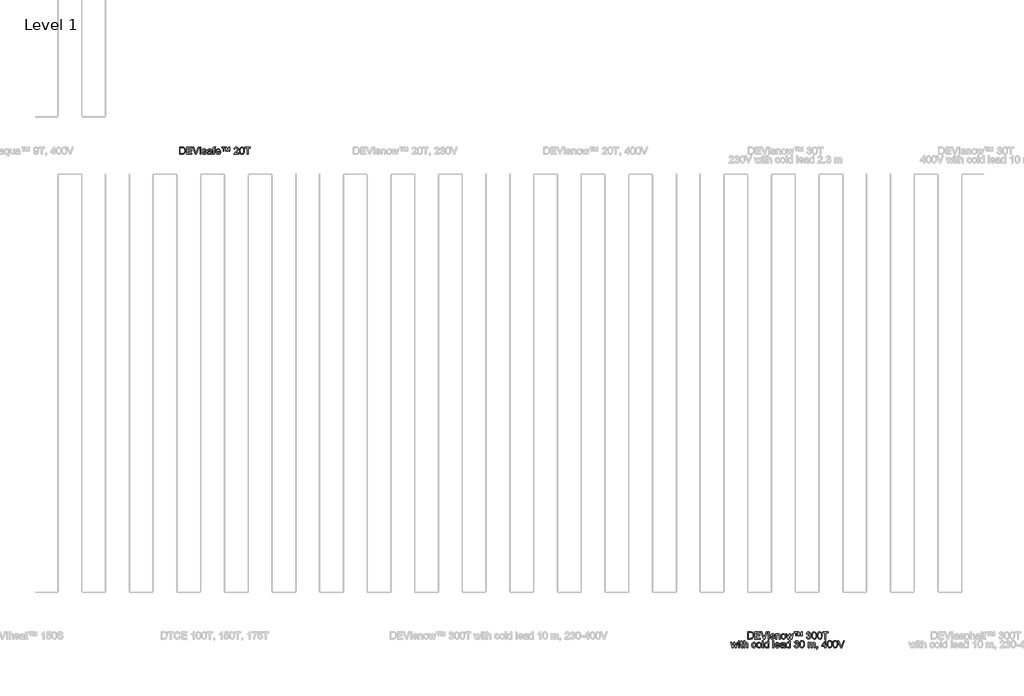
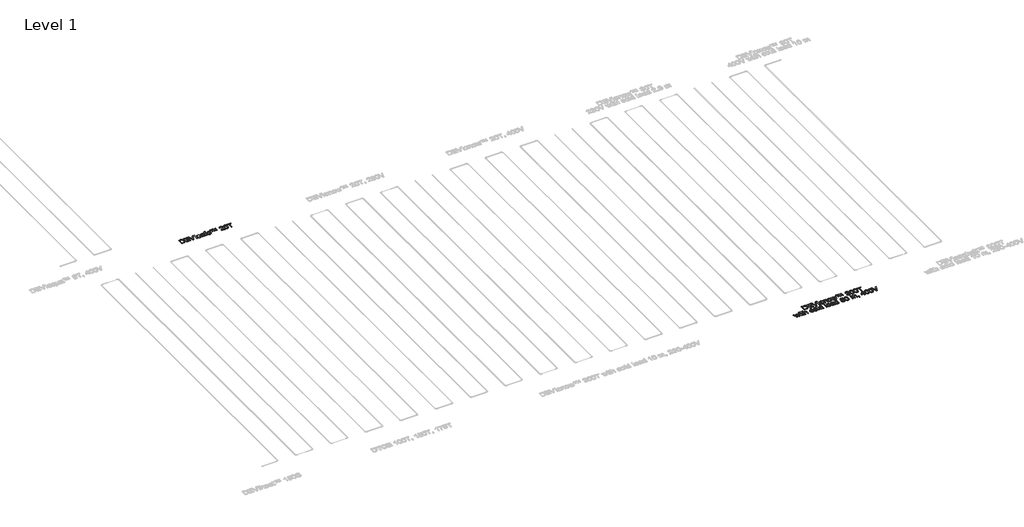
# One storey, part 15 of 26: 2 proxies.
"""IFC4 building model written with IfcOpenShell, lengths in millimetres."""

from ifc_helpers import new_model, si_unit, origin, origin_with_axes, place, context, project, spatial, polyline, outline, extrude, element, save

model = new_model("IFC4")

# Units and contexts
model_context = context("Model", 3, world=origin())
ifc_project = project(units=[si_unit("LENGTHUNIT", "METRE", prefix="MILLI")], contexts=[model_context])

# Site, building, storey
site = spatial("IfcSite", under=ifc_project)
building = spatial("IfcBuilding", under=site)
storey = spatial("IfcBuildingStorey", under=building, Name="Level 1", Elevation=0.0)

# Proxies
placement = place(None, origin())
element("IfcBuildingElementProxy", 1, Name="150mm", ObjectType="150mm", at=placement, inside=storey, context=model_context, shape_type="SweptSolid", body=[
    extrude(outline(polyline([(1467.3969024, -17520.7202), (1467.3969024, -17370.0357347), (1519.3786283, -17370.0357347), (1546.2708022, -17372.2062385), (1568.4172983, -17382.985181), (1578.8375558, -17394.4630992), (1586.259575, -17408.7369206), (1590.7017501, -17425.5307337), (1592.1824752, -17444.568627), (1588.1725614, -17474.9740739), (1577.8718655, -17496.9182349), (1564.1130789, -17510.585051), (1546.1052553, -17518.145026), (1521.8802259, -17520.7202), (1467.3969024, -17520.7202)]), holes=[polyline([(1486.2324606, -17501.8846418), (1519.5625693, -17501.8846418), (1543.8059928, -17499.162315), (1557.7855086, -17491.4735813), (1569.2450328, -17472.7667819), (1573.346917, -17444.2743214), (1571.3373616, -17423.746506), (1565.3086954, -17408.5897678), (1556.4013526, -17398.1787074), (1545.7557674, -17391.8879252), (1519.0475345, -17388.8712929), (1486.2324606, -17388.8712929), (1486.2324606, -17501.8846418)])]), origin_with_axes(), (0.0, 0.0, 1.0), 10.0),
    extrude(outline(polyline([(1618.0813676, -17520.7202), (1618.0813676, -17370.0357347), (1726.385827, -17370.0357347), (1726.385827, -17388.8712929), (1636.9169258, -17388.8712929), (1636.9169258, -17433.6057435), (1721.6769375, -17433.6057435), (1721.6769375, -17452.4413017), (1636.9169258, -17452.4413017), (1636.9169258, -17501.8846418), (1728.7402718, -17501.8846418), (1728.7402718, -17520.7202), (1618.0813676, -17520.7202)])), origin_with_axes(), (0.0, 0.0, 1.0), 10.0),
    extrude(outline(polyline([(1801.5073304, -17520.7202), (1741.5425652, -17370.0357347), (1761.7024985, -17370.0357347), (1801.8384242, -17478.5977115), (1809.9686163, -17503.0618642), (1817.9884438, -17478.5977115), (1858.2347341, -17370.0357347), (1878.3946674, -17370.0357347), (1820.968288, -17520.7202), (1801.5073304, -17520.7202)])), origin_with_axes(), (0.0, 0.0, 1.0), 10.0),
    extrude(outline(polyline([(1898.2602951, -17520.7202), (1898.2602951, -17370.0357347), (1917.0958533, -17370.0357347), (1917.0958533, -17520.7202), (1898.2602951, -17520.7202)])), origin_with_axes(), (0.0, 0.0, 1.0), 10.0),
    extrude(outline(polyline([(1945.3491905, -17487.7579732), (1964.1847487, -17485.4035284), (1967.1553958, -17493.4601441), (1972.903552, -17499.3830442), (1992.8795443, -17504.2390866), (2012.0829845, -17499.7877144), (2018.3369784, -17489.3398658), (2016.7642828, -17484.5390057), (2012.0461963, -17480.8785799), (1992.6588151, -17475.5075028), (1964.2951133, -17466.2920588), (1951.9158841, -17455.5315104), (1947.7036353, -17440.337984), (1951.0881497, -17426.3032859), (1960.3219877, -17415.5795257), (1972.2965467, -17410.0061135), (1988.5017486, -17407.706851), (2011.4207969, -17411.4040651), (2025.9889239, -17421.4104554), (2032.463647, -17438.314633), (2013.6280888, -17440.6690778), (2006.5463604, -17430.2764114), (1989.9732765, -17426.5424092), (1971.9470588, -17430.1108645), (1966.5391935, -17438.4249976), (1968.7832736, -17443.9064394), (1975.8098197, -17448.0635059), (1992.0334157, -17452.0734197), (2019.6797477, -17460.9393757), (2032.5188293, -17470.9825542), (2037.1725365, -17487.353303), (2031.7094889, -17505.3795208), (2015.9457454, -17518.4577257), (1992.6220269, -17523.0746447), (1973.6301189, -17520.8489587), (1959.7701647, -17514.1719004), (1950.5179326, -17503.1170465), (1945.3491905, -17487.7579732)])), origin_with_axes(), (0.0, 0.0, 1.0), 10.0),
    extrude(outline(polyline([(2128.9958825, -17506.5935313), (2110.7305415, -17519.3590366), (2090.552214, -17523.0746447), (2074.8114632, -17520.8397616), (2063.2001877, -17514.1351122), (2056.0402844, -17503.953978), (2053.6536499, -17491.2896403), (2057.2588935, -17476.3904195), (2066.7318548, -17465.5746889), (2079.9204244, -17459.3942714), (2096.2175968, -17456.56158), (2128.8855179, -17450.0868569), (2128.9958825, -17445.8930021), (2127.6990985, -17437.4868985), (2123.8087464, -17431.9870627), (2115.1083372, -17427.9035726), (2102.9866255, -17426.5424092), (2083.9303381, -17430.1660468), (2074.8436528, -17443.0235226), (2056.0080947, -17440.6690778), (2064.1566809, -17422.274978), (2080.5642179, -17411.4960356), (2105.4146466, -17407.706851), (2128.2417244, -17411.0545772), (2141.1359884, -17419.4606808), (2146.9117357, -17432.2445801), (2147.8314407, -17448.7256935), (2147.8314407, -17472.1597766), (2148.7879339, -17504.8828801), (2152.5403302, -17520.7202), (2133.7047721, -17520.7202), (2128.9958825, -17506.5935313)]), holes=[polyline([(2128.9958825, -17468.922415), (2098.6088297, -17474.6981624), (2082.4036278, -17477.7515829), (2075.064382, -17482.7179899), (2072.4892081, -17489.9652652), (2078.0994085, -17500.1555964), (2094.5621278, -17504.2390866), (2113.6184151, -17499.7325321), (2125.9056738, -17488.824831), (2128.8855179, -17474.256704), (2128.9958825, -17468.922415)])]), origin_with_axes(), (0.0, 0.0, 1.0), 10.0),
    extrude(outline(polyline([(2178.4392227, -17520.7202), (2178.4392227, -17428.896854), (2161.9581093, -17428.896854), (2161.9581093, -17410.0612958), (2178.4392227, -17410.0612958), (2178.4392227, -17398.9144714), (2180.4257854, -17383.2059102), (2190.0642937, -17371.9855093), (2209.0470047, -17367.68129), (2226.2270938, -17369.7414291), (2223.4679789, -17387.3997649), (2212.61546, -17386.5168481), (2200.7512657, -17389.6438451), (2197.2747808, -17401.3057043), (2197.2747808, -17410.0612958), (2218.4647837, -17410.0612958), (2218.4647837, -17428.896854), (2197.2747808, -17428.896854), (2197.2747808, -17520.7202), (2178.4392227, -17520.7202)])), origin_with_axes(), (0.0, 0.0, 1.0), 10.0),
    extrude(outline(polyline([(2312.4218453, -17487.7579732), (2330.8895215, -17490.112418), (2324.2354559, -17504.0275544), (2313.6174618, -17514.4294178), (2299.2746625, -17520.913338), (2281.4461813, -17523.0746447), (2259.3456705, -17519.345241), (2242.3403252, -17508.1570298), (2231.4970034, -17490.2365781), (2227.8825628, -17466.3104529), (2231.5337916, -17441.5795857), (2242.487478, -17423.0843184), (2259.262897, -17411.5512179), (2280.3793235, -17407.706851), (2300.838161, -17411.5420208), (2317.1859172, -17423.0475302), (2327.9050788, -17441.5060093), (2331.4781327, -17466.2000883), (2331.3677681, -17471.2768598), (2246.718121, -17471.2768598), (2249.9784752, -17485.3759373), (2257.5522457, -17495.7410125), (2268.4829395, -17502.1145681), (2281.8140633, -17504.2390866), (2300.2817395, -17500.3027492), (2312.4218453, -17487.7579732)]), holes=[polyline([(2246.718121, -17452.4413017), (2312.6425745, -17452.4413017), (2310.0949917, -17442.4900937), (2305.1009936, -17435.3715771), (2294.1197161, -17428.7497012), (2280.3057471, -17426.5424092), (2267.6092198, -17428.3036442), (2257.1107873, -17433.5873494), (2249.8129283, -17441.8233076), (2246.718121, -17452.4413017)])]), origin_with_axes(), (0.0, 0.0, 1.0), 10.0),
    extrude(outline(polyline([(2385.6303624, -17454.7957464), (2385.6303624, -17384.1624033), (2357.3770251, -17384.1624033), (2357.3770251, -17370.0357347), (2428.0103682, -17370.0357347), (2428.0103682, -17384.1624033), (2399.757031, -17384.1624033), (2399.757031, -17454.7957464), (2385.6303624, -17454.7957464)])), origin_with_axes(), (0.0, 0.0, 1.0), 10.0),
    extrude(outline(polyline([(2437.4281473, -17454.7957464), (2437.4281473, -17370.0357347), (2458.3238446, -17370.0357347), (2479.8817295, -17438.0939038), (2501.182097, -17370.0357347), (2522.188159, -17370.0357347), (2522.188159, -17454.7957464), (2508.0614904, -17454.7957464), (2508.0614904, -17385.1924729), (2486.8714874, -17454.7957464), (2472.7448188, -17454.7957464), (2451.5548159, -17384.1624033), (2451.5548159, -17454.7957464), (2437.4281473, -17454.7957464)])), origin_with_axes(), (0.0, 0.0, 1.0), 10.0),
    extrude(outline(polyline([(2710.5437405, -17501.8846418), (2710.5437405, -17520.7202), (2611.6570602, -17520.7202), (2613.6804112, -17507.7339655), (2625.1215412, -17487.7395791), (2648.7027771, -17465.9057827), (2681.2235455, -17434.5254485), (2687.3211896, -17423.7097178), (2689.3537376, -17413.1882928), (2687.4361527, -17403.7567181), (2681.683398, -17395.9162331), (2672.8404345, -17390.6325279), (2661.6522233, -17388.8712929), (2649.9029921, -17390.5911412), (2640.7749201, -17395.7506862), (2634.8842097, -17403.9452576), (2632.8470631, -17414.7701853), (2614.011505, -17412.4157406), (2618.5778402, -17394.1963848), (2628.4508733, -17380.8882536), (2643.1155693, -17372.7488644), (2662.0568935, -17370.0357347), (2681.1361735, -17373.0523671), (2695.7732784, -17382.1022642), (2705.0852914, -17395.6219275), (2708.1892957, -17412.0478586), (2704.8415696, -17429.9085294), (2693.7131392, -17448.3762056), (2666.7289949, -17474.1831276), (2645.0607454, -17492.3013158), (2636.5626713, -17501.8846418), (2710.5437405, -17501.8846418)])), origin_with_axes(), (0.0, 0.0, 1.0), 10.0),
    extrude(outline(polyline([(2729.3792987, -17446.5919779), (2730.7634547, -17422.4727146), (2734.9159227, -17403.2370848), (2741.795316, -17388.5907829), (2751.3602479, -17378.2395032), (2763.6796962, -17372.0866769), (2778.8226388, -17370.0357347), (2800.8219821, -17374.8917771), (2816.0155085, -17388.889687), (2824.8446764, -17411.1833359), (2828.265979, -17446.5919779), (2826.8956185, -17470.5732855), (2822.7845372, -17489.7629301), (2815.9465306, -17504.4230276), (2806.3953943, -17514.8156939), (2794.0483549, -17521.009907), (2778.8226388, -17523.0746447), (2759.2513167, -17519.4877953), (2744.3888841, -17508.7272469), (2733.131695, -17483.2422217), (2729.3792987, -17446.5919779)]), holes=[polyline([(2748.2148568, -17446.5551897), (2750.4221488, -17476.1834859), (2757.0440247, -17493.3313854), (2766.9032622, -17501.5121613), (2778.8226388, -17504.2390866), (2790.7420154, -17501.5029642), (2800.6012529, -17493.2945972), (2807.2231288, -17476.1375007), (2809.4304208, -17446.5551897), (2807.2967052, -17417.5936797), (2800.8955585, -17400.3124229), (2791.0547151, -17391.7315754), (2778.6019096, -17388.8712929), (2766.8112917, -17391.3912846), (2757.3383303, -17398.9512596), (2750.4957252, -17417.3085711), (2748.2148568, -17446.5551897)])]), origin_with_axes(), (0.0, 0.0, 1.0), 10.0),
    extrude(outline(polyline([(2889.481543, -17520.7202), (2889.481543, -17388.8712929), (2840.0382028, -17388.8712929), (2840.0382028, -17370.0357347), (2957.7604413, -17370.0357347), (2957.7604413, -17388.8712929), (2908.3171011, -17388.8712929), (2908.3171011, -17520.7202), (2889.481543, -17520.7202)])), origin_with_axes(), (0.0, 0.0, 1.0), 10.0),
])
element("IfcBuildingElementProxy", 2, Name="150mm", ObjectType="150mm", at=placement, inside=storey, context=model_context, shape_type="SweptSolid", body=[
    extrude(outline(polyline([(13412.1229729, -27720.7202), (13412.1229729, -27570.0357347), (13464.1046989, -27570.0357347), (13490.9968727, -27572.2062385), (13513.1433688, -27582.985181), (13523.5636263, -27594.4630992), (13530.9856456, -27608.7369206), (13535.4278207, -27625.5307337), (13536.9085457, -27644.568627), (13532.898632, -27674.9740739), (13522.5979361, -27696.9182349), (13508.8391495, -27710.585051), (13490.8313258, -27718.145026), (13466.6062964, -27720.7202), (13412.1229729, -27720.7202)]), holes=[polyline([(13430.9585311, -27701.8846418), (13464.2886399, -27701.8846418), (13488.5320633, -27699.162315), (13502.5115792, -27691.4735813), (13513.9711033, -27672.7667819), (13518.0729876, -27644.2743214), (13516.0634322, -27623.746506), (13510.034766, -27608.5897678), (13501.1274232, -27598.1787074), (13490.4818379, -27591.8879252), (13463.7736051, -27588.8712929), (13430.9585311, -27588.8712929), (13430.9585311, -27701.8846418)])]), origin_with_axes(), (0.0, 0.0, 1.0), 10.0),
    extrude(outline(polyline([(13562.8074382, -27720.7202), (13562.8074382, -27570.0357347), (13671.1118975, -27570.0357347), (13671.1118975, -27588.8712929), (13581.6429963, -27588.8712929), (13581.6429963, -27633.6057435), (13666.403008, -27633.6057435), (13666.403008, -27652.4413017), (13581.6429963, -27652.4413017), (13581.6429963, -27701.8846418), (13673.4663423, -27701.8846418), (13673.4663423, -27720.7202), (13562.8074382, -27720.7202)])), origin_with_axes(), (0.0, 0.0, 1.0), 10.0),
    extrude(outline(polyline([(13746.233401, -27720.7202), (13686.2686358, -27570.0357347), (13706.4285691, -27570.0357347), (13746.5644948, -27678.5977115), (13754.6946869, -27703.0618642), (13762.7145143, -27678.5977115), (13802.9608046, -27570.0357347), (13823.120738, -27570.0357347), (13765.6943585, -27720.7202), (13746.233401, -27720.7202)])), origin_with_axes(), (0.0, 0.0, 1.0), 10.0),
    extrude(outline(polyline([(13842.9863657, -27720.7202), (13842.9863657, -27570.0357347), (13861.8219238, -27570.0357347), (13861.8219238, -27720.7202), (13842.9863657, -27720.7202)])), origin_with_axes(), (0.0, 0.0, 1.0), 10.0),
    extrude(outline(polyline([(13890.0752611, -27687.7579732), (13908.9108192, -27685.4035284), (13911.8814663, -27693.4601441), (13917.6296225, -27699.3830442), (13937.6056149, -27704.2390866), (13956.809055, -27699.7877144), (13963.0630489, -27689.3398658), (13961.4903534, -27684.5390057), (13956.7722668, -27680.8785799), (13937.3848857, -27675.5075028), (13909.0211838, -27666.2920588), (13896.6419547, -27655.5315104), (13892.4297058, -27640.337984), (13895.8142202, -27626.3032859), (13905.0480583, -27615.5795257), (13917.0226172, -27610.0061135), (13933.2278191, -27607.706851), (13956.1468674, -27611.4040651), (13970.7149944, -27621.4104554), (13977.1897175, -27638.314633), (13958.3541594, -27640.6690778), (13951.272431, -27630.2764114), (13934.6993471, -27626.5424092), (13916.6731293, -27630.1108645), (13911.265264, -27638.4249976), (13913.5093442, -27643.9064394), (13920.5358903, -27648.0635059), (13936.7594863, -27652.0734197), (13964.4058182, -27660.9393757), (13977.2448998, -27670.9825542), (13981.8986071, -27687.353303), (13976.4355594, -27705.3795208), (13960.671816, -27718.4577257), (13937.3480975, -27723.0746447), (13918.3561895, -27720.8489587), (13904.4962353, -27714.1719004), (13895.2440031, -27703.1170465), (13890.0752611, -27687.7579732)])), origin_with_axes(), (0.0, 0.0, 1.0), 10.0),
    extrude(outline(polyline([(14003.08861, -27720.7202), (14003.08861, -27610.0612958), (14021.9241682, -27610.0612958), (14021.9241682, -27625.5123396), (14036.3267483, -27612.1582232), (14055.9900409, -27607.706851), (14073.7771354, -27611.2937005), (14085.9172412, -27620.7114796), (14091.5642298, -27634.5622367), (14092.5575112, -27652.7723954), (14092.5575112, -27720.7202), (14073.7219531, -27720.7202), (14073.7219531, -27655.3107812), (14071.5514493, -27638.6457268), (14063.8811097, -27629.834953), (14050.9500576, -27626.5424092), (14039.9181962, -27628.3910162), (14030.5142127, -27633.9368373), (14024.0716793, -27644.6514004), (14021.9241682, -27662.0062335), (14021.9241682, -27720.7202), (14003.08861, -27720.7202)])), origin_with_axes(), (0.0, 0.0, 1.0), 10.0),
    extrude(outline(polyline([(14113.7475141, -27665.3907479), (14117.8218072, -27638.7101062), (14130.0446865, -27619.9573215), (14145.1462424, -27610.7694686), (14163.2276425, -27607.706851), (14183.0150953, -27611.4362548), (14198.8202255, -27622.6244659), (14209.1807022, -27640.3885678), (14212.6341944, -27663.8456435), (14211.1074842, -27682.8743397), (14206.5273533, -27697.3596933), (14199.0271592, -27708.2076136), (14188.7402589, -27716.3240101), (14176.5219781, -27721.3869861), (14163.2276425, -27723.0746447), (14143.2010664, -27719.3590366), (14127.4143303, -27708.2122121), (14117.1642182, -27690.0756298), (14113.7475141, -27665.3907479)]), holes=[polyline([(14132.5830723, -27665.3539597), (14134.7627731, -27682.4006916), (14141.3018756, -27694.545396), (14151.142719, -27701.8156639), (14163.2276425, -27704.2390866), (14175.2573837, -27701.8018684), (14185.079833, -27694.4902137), (14191.6189355, -27682.184561), (14193.7986363, -27664.7653485), (14191.6051399, -27648.2152572), (14185.0246507, -27636.2360998), (14175.1884059, -27628.9658318), (14163.2276425, -27626.5424092), (14151.142719, -27628.9566348), (14141.3018756, -27636.1993116), (14134.7627731, -27648.3164248), (14132.5830723, -27665.3539597)])]), origin_with_axes(), (0.0, 0.0, 1.0), 10.0),
    extrude(outline(polyline([(14252.1815089, -27720.7202), (14218.5203064, -27610.0612958), (14238.0916285, -27610.0612958), (14257.1847041, -27674.624586), (14262.886875, -27697.6907871), (14267.5589763, -27675.4707146), (14282.7525027, -27610.0612958), (14305.1933044, -27610.0612958), (14320.3132544, -27675.2867736), (14324.470321, -27695.4099187), (14330.4300093, -27674.1831276), (14349.5598731, -27610.0612958), (14369.2047716, -27610.0612958), (14335.2860516, -27720.7202), (14312.5141561, -27720.7202), (14298.0563937, -27655.825816), (14293.862539, -27635.5923063), (14275.2109218, -27720.7202), (14252.1815089, -27720.7202)])), origin_with_axes(), (0.0, 0.0, 1.0), 10.0),
    extrude(outline(polyline([(14469.2686743, -27654.7957464), (14469.2686743, -27570.0357347), (14490.1643716, -27570.0357347), (14511.7222565, -27638.0939038), (14533.022624, -27570.0357347), (14554.028686, -27570.0357347), (14554.028686, -27654.7957464), (14539.9020174, -27654.7957464), (14539.9020174, -27585.1924729), (14518.7120144, -27654.7957464), (14504.5853458, -27654.7957464), (14483.3953429, -27584.1624033), (14483.3953429, -27654.7957464), (14469.2686743, -27654.7957464)])), origin_with_axes(), (0.0, 0.0, 1.0), 10.0),
    extrude(outline(polyline([(14417.4708894, -27654.7957464), (14417.4708894, -27584.1624033), (14389.2175521, -27584.1624033), (14389.2175521, -27570.0357347), (14459.8508952, -27570.0357347), (14459.8508952, -27584.1624033), (14431.597558, -27584.1624033), (14431.597558, -27654.7957464), (14417.4708894, -27654.7957464)])), origin_with_axes(), (0.0, 0.0, 1.0), 10.0),
    extrude(outline(polyline([(14645.852032, -27680.6946389), (14664.6875901, -27678.3401941), (14668.9044375, -27690.1767973), (14675.0802565, -27698.1690337), (14683.5185498, -27702.7215733), (14694.5228199, -27704.2390866), (14707.435478, -27702.1513563), (14717.40508, -27695.8881653), (14723.7786356, -27686.5439626), (14725.9031541, -27675.2131972), (14723.7970297, -27664.4572473), (14717.4786564, -27655.7338455), (14707.9137246, -27649.9534997), (14696.0679243, -27648.0267177), (14682.8609607, -27650.0868569), (14684.9578881, -27631.2512987), (14687.9745204, -27631.4720279), (14709.3484643, -27626.0641626), (14716.4669809, -27619.2031634), (14718.8398198, -27609.4358964), (14717.1199715, -27601.3011058), (14711.9604265, -27594.7022225), (14704.0877518, -27590.3290253), (14694.2285143, -27588.8712929), (14684.3508828, -27590.3428209), (14676.275873, -27594.7574048), (14670.380564, -27602.1150447), (14667.0420349, -27612.4157406), (14648.2064767, -27610.0612958), (14653.7522978, -27593.1479211), (14663.6207323, -27580.5203716), (14677.1220016, -27572.6568939), (14693.5663267, -27570.0357347), (14716.2830399, -27575.2044768), (14732.1755421, -27589.3311454), (14737.675378, -27608.3322504), (14732.4514536, -27625.6962806), (14717.0004098, -27638.1674802), (14728.7910278, -27642.9315521), (14737.5282252, -27651.0433501), (14742.9360905, -27662.0614158), (14744.7387123, -27675.544291), (14741.1334687, -27693.9016025), (14730.3177381, -27709.2422817), (14713.9929745, -27719.616554), (14693.8606323, -27723.0746447), (14675.6504736, -27720.1223917), (14660.8248292, -27711.2656327), (14650.5149363, -27697.7183782), (14645.852032, -27680.6946389)])), origin_with_axes(), (0.0, 0.0, 1.0), 10.0),
    extrude(outline(polyline([(14761.2198257, -27646.5919779), (14762.6039817, -27622.4727146), (14766.7564497, -27603.2370848), (14773.635843, -27588.5907829), (14783.2007749, -27578.2395032), (14795.5202232, -27572.0866769), (14810.6631658, -27570.0357347), (14832.6625091, -27574.8917771), (14847.8560355, -27588.889687), (14856.6852034, -27611.1833359), (14860.106506, -27646.5919779), (14858.7361455, -27670.5732855), (14854.6250642, -27689.7629301), (14847.7870576, -27704.4230276), (14838.2359213, -27714.8156939), (14825.8888819, -27721.009907), (14810.6631658, -27723.0746447), (14791.0918437, -27719.4877953), (14776.2294111, -27708.7272469), (14764.972222, -27683.2422217), (14761.2198257, -27646.5919779)]), holes=[polyline([(14780.0553838, -27646.5551897), (14782.2626758, -27676.1834859), (14788.8845517, -27693.3313854), (14798.7437892, -27701.5121613), (14810.6631658, -27704.2390866), (14822.5825425, -27701.5029642), (14832.4417799, -27693.2945972), (14839.0636558, -27676.1375007), (14841.2709478, -27646.5551897), (14839.1372322, -27617.5936797), (14832.7360855, -27600.3124229), (14822.8952421, -27591.7315754), (14810.4424366, -27588.8712929), (14798.6518187, -27591.3912846), (14789.1788573, -27598.9512596), (14782.3362522, -27617.3085711), (14780.0553838, -27646.5551897)])]), origin_with_axes(), (0.0, 0.0, 1.0), 10.0),
    extrude(outline(polyline([(14876.5876193, -27646.5919779), (14877.9717754, -27622.4727146), (14882.1242434, -27603.2370848), (14889.0036367, -27588.5907829), (14898.5685686, -27578.2395032), (14910.8880169, -27572.0866769), (14926.0309595, -27570.0357347), (14948.0303028, -27574.8917771), (14963.2238292, -27588.889687), (14972.0529971, -27611.1833359), (14975.4742996, -27646.5919779), (14974.1039392, -27670.5732855), (14969.9928579, -27689.7629301), (14963.1548513, -27704.4230276), (14953.603715, -27714.8156939), (14941.2566756, -27721.009907), (14926.0309595, -27723.0746447), (14906.4596374, -27719.4877953), (14891.5972047, -27708.7272469), (14880.3400157, -27683.2422217), (14876.5876193, -27646.5919779)]), holes=[polyline([(14895.4231775, -27646.5551897), (14897.6304695, -27676.1834859), (14904.2523454, -27693.3313854), (14914.1115829, -27701.5121613), (14926.0309595, -27704.2390866), (14937.9503361, -27701.5029642), (14947.8095736, -27693.2945972), (14954.4314495, -27676.1375007), (14956.6387415, -27646.5551897), (14954.5050259, -27617.5936797), (14948.1038792, -27600.3124229), (14938.2630358, -27591.7315754), (14925.8102303, -27588.8712929), (14914.0196124, -27591.3912846), (14904.546651, -27598.9512596), (14897.7040459, -27617.3085711), (14895.4231775, -27646.5551897)])]), origin_with_axes(), (0.0, 0.0, 1.0), 10.0),
    extrude(outline(polyline([(15036.6898636, -27720.7202), (15036.6898636, -27588.8712929), (14987.2465235, -27588.8712929), (14987.2465235, -27570.0357347), (15104.968762, -27570.0357347), (15104.968762, -27588.8712929), (15055.5254218, -27588.8712929), (15055.5254218, -27720.7202), (15036.6898636, -27720.7202)])), origin_with_axes(), (0.0, 0.0, 1.0), 10.0),
    extrude(outline(polyline([(13090.2630154, -27903.6824267), (13056.6018128, -27793.0235226), (13076.1731349, -27793.0235226), (13095.2662105, -27857.5868127), (13100.9683814, -27880.6530138), (13105.6404828, -27858.4329413), (13120.8340092, -27793.0235226), (13143.2748109, -27793.0235226), (13158.3947609, -27858.2490003), (13162.5518274, -27878.3721455), (13168.5115157, -27857.1453543), (13187.6413795, -27793.0235226), (13207.286278, -27793.0235226), (13173.3675581, -27903.6824267), (13150.5956626, -27903.6824267), (13136.1379002, -27838.7880428), (13131.9440454, -27818.554533), (13113.2924283, -27903.6824267), (13090.2630154, -27903.6824267)])), origin_with_axes(), (0.0, 0.0, 1.0), 10.0),
    extrude(outline(polyline([(13220.2357243, -27771.8335197), (13220.2357243, -27752.9979615), (13239.0712824, -27752.9979615), (13239.0712824, -27771.8335197), (13220.2357243, -27771.8335197)])), origin_with_axes(), (0.0, 0.0, 1.0), 10.0),
    extrude(outline(polyline([(13220.2357243, -27903.6824267), (13220.2357243, -27793.0235226), (13239.0712824, -27793.0235226), (13239.0712824, -27903.6824267), (13220.2357243, -27903.6824267)])), origin_with_axes(), (0.0, 0.0, 1.0), 10.0),
    extrude(outline(polyline([(13307.3501807, -27887.9738655), (13309.7046255, -27904.2342497), (13295.6147451, -27906.0368715), (13279.8326075, -27902.9098745), (13271.9599328, -27894.706106), (13269.6790644, -27873.3321621), (13269.6790644, -27811.8590807), (13255.5523958, -27811.8590807), (13255.5523958, -27793.0235226), (13269.6790644, -27793.0235226), (13269.6790644, -27766.1313487), (13288.5146226, -27755.0581007), (13288.5146226, -27793.0235226), (13307.3501807, -27793.0235226), (13307.3501807, -27811.8590807), (13288.5146226, -27811.8590807), (13288.5146226, -27872.7803391), (13289.507904, -27882.4924238), (13292.7268714, -27885.9321205), (13299.1464122, -27887.2013133), (13307.3501807, -27887.9738655)])), origin_with_axes(), (0.0, 0.0, 1.0), 10.0),
    extrude(outline(polyline([(13326.1857389, -27903.6824267), (13326.1857389, -27752.9979615), (13345.021297, -27752.9979615), (13345.021297, -27808.40099), (13359.7089857, -27795.1020558), (13377.7995828, -27790.6690778), (13398.9527975, -27795.506726), (13411.7918791, -27808.8792366), (13415.6546401, -27833.6376948), (13415.6546401, -27903.6824267), (13396.8190819, -27903.6824267), (13396.8190819, -27835.5874694), (13395.3199628, -27823.7968515), (13390.8226054, -27815.7218417), (13383.5753301, -27811.0589374), (13373.8264572, -27809.504636), (13358.3938075, -27813.6984907), (13348.0931117, -27825.0660444), (13345.021297, -27844.8948839), (13345.021297, -27903.6824267), (13326.1857389, -27903.6824267)])), origin_with_axes(), (0.0, 0.0, 1.0), 10.0),
    extrude(outline(polyline([(13571.0479949, -27863.6568657), (13589.883553, -27866.0113104), (13584.6320375, -27882.7637368), (13574.763603, -27895.4234759), (13561.2071515, -27903.3835226), (13544.891585, -27906.0368715), (13524.8558118, -27902.3350589), (13509.1886374, -27891.2296212), (13499.076481, -27873.208002), (13495.7057622, -27848.7576448), (13497.1451006, -27831.9960214), (13501.4631155, -27817.4692812), (13508.7287849, -27805.738444), (13519.0110866, -27797.3645301), (13531.3121409, -27792.3429409), (13544.6340676, -27790.6690778), (13560.5495624, -27792.9683403), (13573.2736809, -27799.8661277), (13582.4017529, -27810.994558), (13587.5291082, -27825.9857493), (13568.6935501, -27828.3401941), (13559.9563527, -27814.2319196), (13544.7812204, -27809.504636), (13532.6089249, -27811.8314896), (13522.947424, -27818.8120504), (13516.6428463, -27830.8233976), (13514.5413204, -27848.2426101), (13516.5968611, -27865.8963473), (13522.763483, -27877.9490812), (13532.2502399, -27884.8882553), (13544.2661856, -27887.2013133), (13554.019657, -27885.7573765), (13562.0164919, -27881.425566), (13567.8336259, -27874.0955173), (13571.0479949, -27863.6568657)])), origin_with_axes(), (0.0, 0.0, 1.0), 10.0),
    extrude(outline(polyline([(13601.6557769, -27848.3529747), (13605.73007, -27821.672333), (13617.9529492, -27802.9195482), (13633.0545051, -27793.7316954), (13651.1359052, -27790.6690778), (13670.923358, -27794.3984815), (13686.7284882, -27805.5866927), (13697.0889649, -27823.3507946), (13700.5424572, -27846.8078703), (13699.0157469, -27865.8365665), (13694.435616, -27880.32192), (13686.9354219, -27891.1698404), (13676.6485216, -27899.2862369), (13664.4302408, -27904.3492128), (13651.1359052, -27906.0368715), (13631.1093291, -27902.3212633), (13615.322593, -27891.1744389), (13605.0724809, -27873.0378565), (13601.6557769, -27848.3529747)]), holes=[polyline([(13620.491335, -27848.3161865), (13622.6710358, -27865.3629184), (13629.2101383, -27877.5076228), (13639.0509817, -27884.7778907), (13651.1359052, -27887.2013133), (13663.1656465, -27884.7640951), (13672.9880957, -27877.4524405), (13679.5271982, -27865.1467877), (13681.706899, -27847.7275753), (13679.5134026, -27831.177484), (13672.9329134, -27819.1983265), (13663.0966686, -27811.9280586), (13651.1359052, -27809.504636), (13639.0509817, -27811.9188616), (13629.2101383, -27819.1615383), (13622.6710358, -27831.2786516), (13620.491335, -27848.3161865)])]), origin_with_axes(), (0.0, 0.0, 1.0), 10.0),
    extrude(outline(polyline([(13721.7324601, -27903.6824267), (13721.7324601, -27752.9979615), (13740.5680182, -27752.9979615), (13740.5680182, -27903.6824267), (13721.7324601, -27903.6824267)])), origin_with_axes(), (0.0, 0.0, 1.0), 10.0),
    extrude(outline(polyline([(13837.1002538, -27903.6824267), (13837.1002538, -27885.9137264), (13824.6382512, -27901.0060852), (13807.4121768, -27906.0368715), (13795.2352827, -27904.2158556), (13784.0884583, -27898.752808), (13774.6522851, -27890.0294062), (13767.6073449, -27878.4273278), (13763.2203521, -27864.4156223), (13761.7580212, -27848.4633392), (13767.1474924, -27818.4809566), (13773.8797329, -27806.5891711), (13783.297512, -27797.8427767), (13794.6880583, -27792.4625025), (13807.3386004, -27790.6690778), (13824.7026305, -27795.8010316), (13837.1002538, -27809.136754), (13837.1002538, -27752.9979615), (13855.9358119, -27752.9979615), (13855.9358119, -27903.6824267), (13837.1002538, -27903.6824267)]), holes=[polyline([(13780.5935793, -27848.3897629), (13782.7180978, -27865.4272978), (13789.0916534, -27877.544411), (13798.3530826, -27884.7870877), (13809.1412221, -27887.2013133), (13819.9247631, -27884.8974523), (13828.9516676, -27877.9858694), (13835.0631072, -27866.3378057), (13837.1002538, -27849.8245026), (13835.026319, -27831.7706937), (13828.8045148, -27819.2535088), (13819.5476841, -27811.9418542), (13808.36867, -27809.504636), (13797.4701658, -27811.8452852), (13788.5398304, -27818.8672327), (13782.5801421, -27830.9291637), (13780.5935793, -27848.3897629)])]), origin_with_axes(), (0.0, 0.0, 1.0), 10.0),
    extrude(outline(polyline([(13943.0502684, -27903.6824267), (13943.0502684, -27752.9979615), (13961.8858265, -27752.9979615), (13961.8858265, -27903.6824267), (13943.0502684, -27903.6824267)])), origin_with_axes(), (0.0, 0.0, 1.0), 10.0),
    extrude(outline(polyline([(14067.615112, -27870.7202), (14086.0827881, -27873.0746447), (14079.4287225, -27886.9897812), (14068.8107284, -27897.3916446), (14054.4679291, -27903.8755648), (14036.639448, -27906.0368715), (14014.5389371, -27902.3074678), (13997.5335919, -27891.1192566), (13986.6902701, -27873.1988049), (13983.0758295, -27849.2726796), (13986.7270583, -27824.5418125), (13997.6807447, -27806.0465452), (14014.4561636, -27794.5134447), (14035.5725902, -27790.6690778), (14056.0314276, -27794.5042476), (14072.3791838, -27806.009757), (14083.0983454, -27824.4682361), (14086.6713993, -27849.162315), (14086.5610347, -27854.2390866), (14001.9113876, -27854.2390866), (14005.1717418, -27868.338164), (14012.7455124, -27878.7032393), (14023.6762062, -27885.0767948), (14037.00733, -27887.2013133), (14055.4750061, -27883.264976), (14067.615112, -27870.7202)]), holes=[polyline([(14001.9113876, -27835.4035284), (14067.8358411, -27835.4035284), (14065.2882583, -27825.4523205), (14060.2942602, -27818.3338038), (14049.3129827, -27811.7119279), (14035.4990138, -27809.504636), (14022.8024864, -27811.265871), (14012.304054, -27816.5495762), (14005.0061949, -27824.7855343), (14001.9113876, -27835.4035284)])]), origin_with_axes(), (0.0, 0.0, 1.0), 10.0),
    extrude(outline(polyline([(14176.1403005, -27889.5557581), (14157.8749595, -27902.3212633), (14137.696632, -27906.0368715), (14121.9558812, -27903.8019884), (14110.3446057, -27897.097339), (14103.1847024, -27886.9162048), (14100.7980679, -27874.2518671), (14104.4033115, -27859.3526463), (14113.8762728, -27848.5369156), (14127.0648424, -27842.3564981), (14143.3620148, -27839.5238068), (14176.0299359, -27833.0490837), (14176.1403005, -27828.8552289), (14174.8435165, -27820.4491253), (14170.9531644, -27814.9492895), (14162.2527552, -27810.8657993), (14150.1310435, -27809.504636), (14131.0747561, -27813.1282736), (14121.9880708, -27825.9857493), (14103.1525127, -27823.6313046), (14111.3010989, -27805.2372048), (14127.7086359, -27794.4582624), (14152.5590646, -27790.6690778), (14175.3861424, -27794.016804), (14188.2804064, -27802.4229076), (14194.0561537, -27815.2068069), (14194.9758587, -27831.6879203), (14194.9758587, -27855.1220034), (14195.9323519, -27887.8451068), (14199.6847482, -27903.6824267), (14180.8491901, -27903.6824267), (14176.1403005, -27889.5557581)]), holes=[polyline([(14176.1403005, -27851.8846418), (14145.7532477, -27857.6603891), (14129.5480458, -27860.7138097), (14122.2088, -27865.6802166), (14119.6336261, -27872.9274919), (14125.2438265, -27883.1178232), (14141.7065458, -27887.2013133), (14160.7628331, -27882.6947589), (14173.0500918, -27871.7870577), (14176.0299359, -27857.2189307), (14176.1403005, -27851.8846418)])]), origin_with_axes(), (0.0, 0.0, 1.0), 10.0),
    extrude(outline(polyline([(14289.1536494, -27903.6824267), (14289.1536494, -27885.9137264), (14276.6916469, -27901.0060852), (14259.4655724, -27906.0368715), (14247.2886784, -27904.2158556), (14236.1418539, -27898.752808), (14226.7056808, -27890.0294062), (14219.6607406, -27878.4273278), (14215.2737478, -27864.4156223), (14213.8114168, -27848.4633392), (14219.2008881, -27818.4809566), (14225.9331286, -27806.5891711), (14235.3509077, -27797.8427767), (14246.7414539, -27792.4625025), (14259.391996, -27790.6690778), (14276.7560262, -27795.8010316), (14289.1536494, -27809.136754), (14289.1536494, -27752.9979615), (14307.9892076, -27752.9979615), (14307.9892076, -27903.6824267), (14289.1536494, -27903.6824267)]), holes=[polyline([(14232.646975, -27848.3897629), (14234.7714935, -27865.4272978), (14241.1450491, -27877.544411), (14250.4064783, -27884.7870877), (14261.1946178, -27887.2013133), (14271.9781588, -27884.8974523), (14281.0050633, -27877.9858694), (14287.1165029, -27866.3378057), (14289.1536494, -27849.8245026), (14287.0797147, -27831.7706937), (14280.8579105, -27819.2535088), (14271.6010798, -27811.9418542), (14260.4220656, -27809.504636), (14249.5235615, -27811.8452852), (14240.5932261, -27818.8672327), (14234.6335378, -27830.9291637), (14232.646975, -27848.3897629)])]), origin_with_axes(), (0.0, 0.0, 1.0), 10.0),
    extrude(outline(polyline([(14390.3947745, -27863.6568657), (14409.2303327, -27861.3024209), (14413.44718, -27873.1390241), (14419.622999, -27881.1312604), (14428.0612923, -27885.6838001), (14439.0655625, -27887.2013133), (14451.9782205, -27885.113583), (14461.9478226, -27878.8503921), (14468.3213781, -27869.5061894), (14470.4458967, -27858.1754239), (14468.3397722, -27847.4194741), (14462.021399, -27838.6960723), (14452.4564671, -27832.9157264), (14440.6106669, -27830.9889445), (14427.4037032, -27833.0490837), (14429.5006306, -27814.2135255), (14432.517263, -27814.4342547), (14453.8912069, -27809.0263894), (14461.0097235, -27802.1653902), (14463.3825624, -27792.3981232), (14461.662714, -27784.2633326), (14456.5031691, -27777.6644493), (14448.6304944, -27773.2912521), (14438.7712569, -27771.8335197), (14428.8936253, -27773.3050476), (14420.8186155, -27777.7196316), (14414.9233065, -27785.0772715), (14411.5847774, -27795.3779673), (14392.7492193, -27793.0235226), (14398.2950404, -27776.1101478), (14408.1634749, -27763.4825984), (14421.6647441, -27755.6191207), (14438.1090693, -27752.9979615), (14460.8257825, -27758.1667035), (14476.7182847, -27772.2933721), (14482.2181205, -27791.2944772), (14476.9941962, -27808.6585074), (14461.5431524, -27821.129707), (14473.3337703, -27825.8937788), (14482.0709677, -27834.0055768), (14487.478833, -27845.0236426), (14489.2814548, -27858.5065177), (14485.6762113, -27876.8638293), (14474.8604806, -27892.2045085), (14458.5357171, -27902.5787807), (14438.4033749, -27906.0368715), (14420.1932161, -27903.0846185), (14405.3675717, -27894.2278594), (14395.0576788, -27880.680605), (14390.3947745, -27863.6568657)])), origin_with_axes(), (0.0, 0.0, 1.0), 10.0),
    extrude(outline(polyline([(14505.7625682, -27829.5542047), (14507.1467242, -27805.4349414), (14511.2991922, -27786.1993116), (14518.1785855, -27771.5530096), (14527.7435174, -27761.20173), (14540.0629657, -27755.0489036), (14555.2059084, -27752.9979615), (14577.2052517, -27757.8540038), (14592.3987781, -27771.8519138), (14601.227946, -27794.1455627), (14604.6492485, -27829.5542047), (14603.2788881, -27853.5355123), (14599.1678068, -27872.7251568), (14592.3298002, -27887.3852543), (14582.7786639, -27897.7779207), (14570.4316244, -27903.9721338), (14555.2059084, -27906.0368715), (14535.6345862, -27902.450022), (14520.7721536, -27891.6894737), (14509.5149646, -27866.2044485), (14505.7625682, -27829.5542047)]), holes=[polyline([(14524.5981264, -27829.5174165), (14526.8054183, -27859.1457127), (14533.4272942, -27876.2936122), (14543.2865317, -27884.4743881), (14555.2059084, -27887.2013133), (14567.125285, -27884.465191), (14576.9845225, -27876.256824), (14583.6063984, -27859.0997274), (14585.8136904, -27829.5174165), (14583.6799748, -27800.5559064), (14577.2788281, -27783.2746497), (14567.4379847, -27774.6938022), (14554.9851792, -27771.8335197), (14543.1945612, -27774.3535113), (14533.7215998, -27781.9134863), (14526.8789947, -27800.2707979), (14524.5981264, -27829.5174165)])]), origin_with_axes(), (0.0, 0.0, 1.0), 10.0),
    extrude(outline(polyline([(14684.7003707, -27903.6824267), (14684.7003707, -27793.0235226), (14703.5359288, -27793.0235226), (14703.5359288, -27811.2336813), (14716.485375, -27796.3160664), (14734.916263, -27790.6690778), (14745.3917028, -27792.1084161), (14753.7886094, -27796.426431), (14764.1628816, -27812.5580565), (14778.8597673, -27796.1413225), (14797.419414, -27790.6690778), (14811.5782723, -27792.9453477), (14822.0491136, -27799.7741572), (14828.5192382, -27811.3394474), (14830.6759463, -27827.8251593), (14830.6759463, -27903.6824267), (14811.8403882, -27903.6824267), (14811.8403882, -27835.9185632), (14810.0929487, -27820.1916079), (14803.7653784, -27812.4476919), (14793.00483, -27809.504636), (14782.8007032, -27811.3900312), (14774.4819716, -27817.0462169), (14768.9499461, -27826.8594691), (14767.1059376, -27841.2160639), (14767.1059376, -27903.6824267), (14748.2703794, -27903.6824267), (14748.2703794, -27833.8216358), (14743.9109778, -27815.5746889), (14738.1582231, -27811.0221492), (14729.6187623, -27809.504636), (14715.6760347, -27813.5513379), (14706.4054084, -27825.3971382), (14703.5359288, -27847.8747281), (14703.5359288, -27903.6824267), (14684.7003707, -27903.6824267)])), origin_with_axes(), (0.0, 0.0, 1.0), 10.0),
    extrude(outline(polyline([(14863.6381731, -27903.6824267), (14863.6381731, -27884.8468686), (14882.4737313, -27884.8468686), (14882.4737313, -27903.6824267), (14879.0892169, -27922.9410492), (14868.3470627, -27934.2902087), (14863.6381731, -27927.2268744), (14870.5543546, -27919.0966823), (14873.019164, -27903.6824267), (14863.6381731, -27903.6824267)])), origin_with_axes(), (0.0, 0.0, 1.0), 10.0),
    extrude(outline(polyline([(15033.1581965, -27903.6824267), (15033.1581965, -27868.3657552), (14964.8792982, -27868.3657552), (14964.8792982, -27849.530197), (15037.867086, -27755.3524063), (15051.9937546, -27755.3524063), (15051.9937546, -27849.530197), (15070.8293128, -27849.530197), (15070.8293128, -27868.3657552), (15051.9937546, -27868.3657552), (15051.9937546, -27903.6824267), (15033.1581965, -27903.6824267)]), holes=[polyline([(15033.1581965, -27849.530197), (15033.1581965, -27791.3312654), (14988.0558639, -27849.530197), (15033.1581965, -27849.530197)])]), origin_with_axes(), (0.0, 0.0, 1.0), 10.0),
    extrude(outline(polyline([(15087.3104262, -27829.5542047), (15088.6945822, -27805.4349414), (15092.8470502, -27786.1993116), (15099.7264435, -27771.5530096), (15109.2913754, -27761.20173), (15121.6108237, -27755.0489036), (15136.7537663, -27752.9979615), (15158.7531096, -27757.8540038), (15173.946636, -27771.8519138), (15182.7758039, -27794.1455627), (15186.1971065, -27829.5542047), (15184.8267461, -27853.5355123), (15180.7156648, -27872.7251568), (15173.8776582, -27887.3852543), (15164.3265219, -27897.7779207), (15151.9794824, -27903.9721338), (15136.7537663, -27906.0368715), (15117.1824442, -27902.450022), (15102.3200116, -27891.6894737), (15091.0628225, -27866.2044485), (15087.3104262, -27829.5542047)]), holes=[polyline([(15106.1459843, -27829.5174165), (15108.3532763, -27859.1457127), (15114.9751522, -27876.2936122), (15124.8343897, -27884.4743881), (15136.7537663, -27887.2013133), (15148.673143, -27884.465191), (15158.5323804, -27876.256824), (15165.1542564, -27859.0997274), (15167.3615483, -27829.5174165), (15165.2278328, -27800.5559064), (15158.826686, -27783.2746497), (15148.9858427, -27774.6938022), (15136.5330371, -27771.8335197), (15124.7424192, -27774.3535113), (15115.2694578, -27781.9134863), (15108.4268527, -27800.2707979), (15106.1459843, -27829.5174165)])]), origin_with_axes(), (0.0, 0.0, 1.0), 10.0),
    extrude(outline(polyline([(15202.6782199, -27829.5542047), (15204.0623759, -27805.4349414), (15208.2148439, -27786.1993116), (15215.0942372, -27771.5530096), (15224.6591691, -27761.20173), (15236.9786174, -27755.0489036), (15252.12156, -27752.9979615), (15274.1209033, -27757.8540038), (15289.3144297, -27771.8519138), (15298.1435976, -27794.1455627), (15301.5649002, -27829.5542047), (15300.1945397, -27853.5355123), (15296.0834584, -27872.7251568), (15289.2454519, -27887.3852543), (15279.6943156, -27897.7779207), (15267.3472761, -27903.9721338), (15252.12156, -27906.0368715), (15232.5502379, -27902.450022), (15217.6878053, -27891.6894737), (15206.4306162, -27866.2044485), (15202.6782199, -27829.5542047)]), holes=[polyline([(15221.513778, -27829.5174165), (15223.72107, -27859.1457127), (15230.3429459, -27876.2936122), (15240.2021834, -27884.4743881), (15252.12156, -27887.2013133), (15264.0409367, -27884.465191), (15273.9001741, -27876.256824), (15280.52205, -27859.0997274), (15282.729342, -27829.5174165), (15280.5956264, -27800.5559064), (15274.1944797, -27783.2746497), (15264.3536364, -27774.6938022), (15251.9008308, -27771.8335197), (15240.1102129, -27774.3535113), (15230.6372515, -27781.9134863), (15223.7946464, -27800.2707979), (15221.513778, -27829.5174165)])]), origin_with_axes(), (0.0, 0.0, 1.0), 10.0),
    extrude(outline(polyline([(15369.6230693, -27903.6824267), (15309.6583041, -27752.9979615), (15329.8182374, -27752.9979615), (15369.9541631, -27861.5599383), (15378.0843552, -27886.024091), (15386.1041827, -27861.5599383), (15426.3504729, -27752.9979615), (15446.5104063, -27752.9979615), (15389.0840268, -27903.6824267), (15369.6230693, -27903.6824267)])), origin_with_axes(), (0.0, 0.0, 1.0), 10.0),
])

save(model, "model.ifc")
